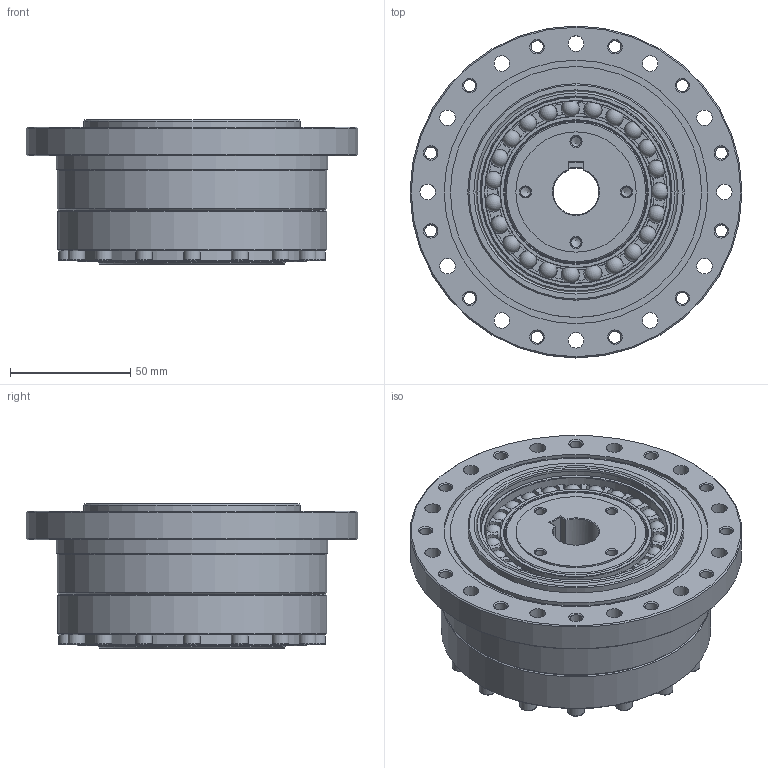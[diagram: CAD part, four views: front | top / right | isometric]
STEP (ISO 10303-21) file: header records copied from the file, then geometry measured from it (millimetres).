
FILE_DESCRIPTION(/* description */ (''),/* implementation_level */ '2;1');
FILE_NAME(/* name */ 'FSG-32-XX-U-I_孔径19.stp',/* time_stamp */ '2025-02-13T10:47:26+08:00',/* author */ (''),/* organization */ (''),/* preprocessor_version */ 'ST-DEVELOPER v16.7',/* originating_system */ 'SIEMENS PLM Software NX 12.0',/* authorisation */ '');
FILE_SCHEMA (('AUTOMOTIVE_DESIGN { 1 0 10303 214 3 1 1 1 }'));
Length unit declared in the file: millimetre
Products named in the file (15): EB598012-32KCH-46338; EB598012-32KCH-04339; EB598012-32KCH-02340; EB598012-32KCH-01341; TC-78x92x5342; 刚轮FSG-32_stp343; GB-T70.1-2000,M4x25344; GB-T70.1-2000,M8x25345; O型密封圈91.8-88-1.1346; 柔轮垫块LSS-32347; 发生器FSG-32-XXDL直径19_stp348; 柔轮FSG-32_stp349; EB598012-32KCH_stp350; 交叉轴承LSS-32351; FSG-32-XX-U-I_孔径19__stp
Assembly tree (36 placements, depth 3):
  FSG-32-XX-U-I_孔径19__stp
    柔轮FSG-32_stp349
    发生器FSG-32-XXDL直径19_stp348
    柔轮垫块LSS-32347
    交叉轴承LSS-32351
      TC-78x92x5342
    EB598012-32KCH_stp350
      EB598012-32KCH-01341
      EB598012-32KCH-02340
      EB598012-32KCH-04339
      EB598012-32KCH-46338
    O型密封圈91.8-88-1.1346
    GB-T70.1-2000,M8x25345  x8
    GB-T70.1-2000,M4x25344  x16
    刚轮FSG-32_stp343
Bounding box: 138 x 138 x 60 mm (x, y, z)
Volume: 418352 mm3; surface area: 194339.3 mm2
Topology: 58 solids, 58 shells, 1234 faces, 2644 edges, 1532 vertices
Faces by surface type: plane 465, cone 385, cylinder 244, torus 115, sphere 23, bspline 2
Full cylindrical faces by diameter (mm): 2.5 x2, 3.3 x16, 3.838 x16, 4.2 x4, 4.5 x16, 5 x12, 6.5 x12, 6.8 x8, 7 x16, 7.76 x8, 8.5 x16, 9 x8, 13 x8, 20 x1, 26 x3, 32 x1, 50 x1, 52 x1, 54 x1, 56.7 x1, 58.928 x2, 62 x1, 63.096 x2, 65 x1, 68.6 x1, 69 x1, 73.8 x1, 74 x1, 75.8 x1, 75.83 x2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
Entity records: 20367 total; most frequent: CARTESIAN_POINT 4987, DIRECTION 3125, ORIENTED_EDGE 2252, AXIS2_PLACEMENT_3D 1436, EDGE_CURVE 1126, EDGE_LOOP 1101, VERTEX_POINT 872, FACE_BOUND 829
